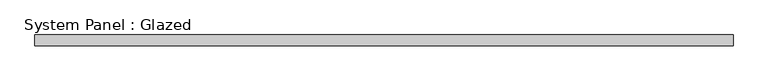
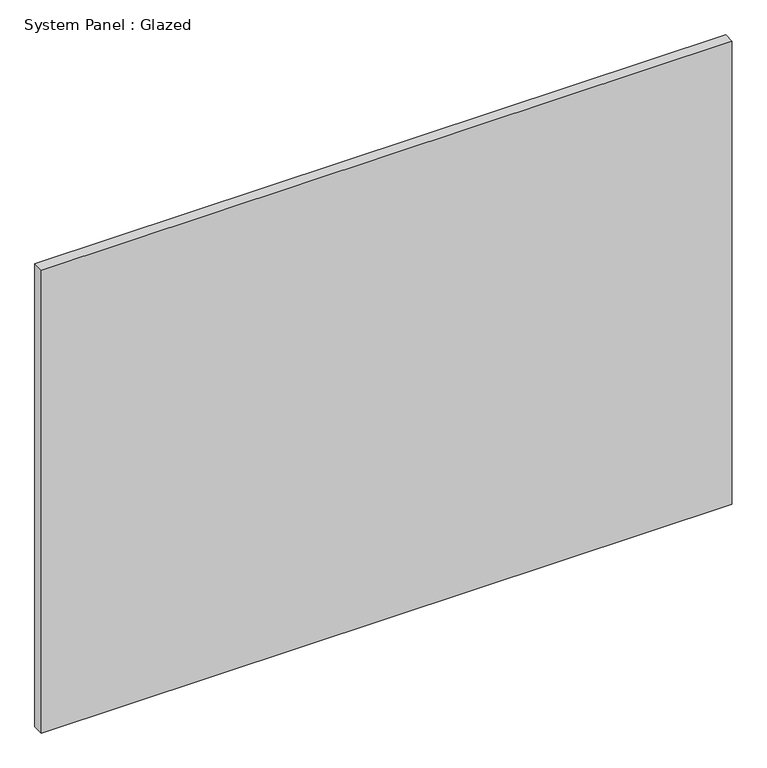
"""IFC4 building model written with IfcOpenShell, lengths in millimetres: plate geometry, System Panel : Glazed."""

from ifc_helpers import new_model, si_unit, origin, origin_with_axes, place, context, project, spatial, polyline, outline, extrude, source, transform, mapped, element, save


def system_panel_glazed_08af4b28(model_context):
    return source(origin(), model_context, "Body", "SweptSolid", [
        extrude(outline(polyline([(802.3750001, 19.05), (-802.3750001, 19.05), (-802.3750001, 44.45), (802.3750001, 44.45), (802.3750001, 19.05)])), origin_with_axes(), (0.0, 0.0, 1.0), 1136.5),
    ])


if __name__ == "__main__":
    model = new_model("IFC4")
    model_context = context("Model", 3, world=origin())
    ifc_project = project(units=[si_unit("LENGTHUNIT", "METRE", prefix="MILLI")], contexts=[model_context])
    site = spatial("IfcSite", under=ifc_project)
    building = spatial("IfcBuilding", under=site)
    placement = place(None, origin())
    system_panel_glazed_shape = system_panel_glazed_08af4b28(model_context)
    element("IfcPlate", 1, ObjectType="System Panel : Glazed", at=placement, inside=building, context=model_context, shape_type="MappedRepresentation", body=[
        mapped(system_panel_glazed_shape, transform((0.0, 0.0, 0.0), x_axis=(1.0, 0.0, 0.0), y_axis=(0.0, 1.0, 0.0), z_axis=(0.0, 0.0, 1.0))),
    ])
    save(model, "model.ifc")
